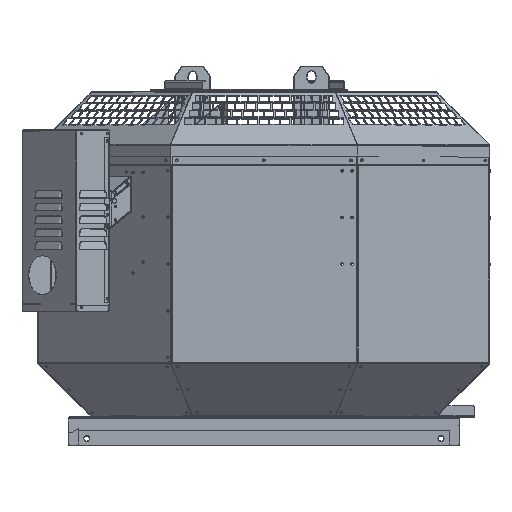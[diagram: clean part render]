
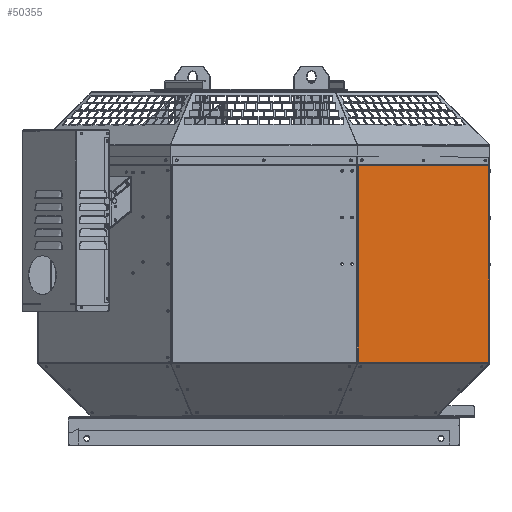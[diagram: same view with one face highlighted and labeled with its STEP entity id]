
A CAD part, top view. The second image highlights one B-rep face of the part: STEP entity #50355.
In plain terms, the highlighted planar face has unit normal (0.707, 0, 0.707).
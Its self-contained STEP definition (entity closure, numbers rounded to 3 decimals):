
#1117 = VECTOR ( 'NONE', #79343, 1000. ) ;
#4549 = ORIENTED_EDGE ( 'NONE', *, *, #87903, .F. ) ;
#11472 = CARTESIAN_POINT ( 'NONE',  ( 150.468, 422.408, 360.063 ) ) ;
#13188 = DIRECTION ( 'NONE',  ( 0.707, 0., -0.707 ) ) ;
#14889 = DIRECTION ( 'NONE',  ( 0., -1., 0. ) ) ;
#16103 = VECTOR ( 'NONE', #24863, 1000. ) ;
#17539 = VERTEX_POINT ( 'NONE', #139585 ) ;
#20257 = VECTOR ( 'NONE', #48614, 1000. ) ;
#22260 = ORIENTED_EDGE ( 'NONE', *, *, #116002, .T. ) ;
#24262 = VECTOR ( 'NONE', #13188, 1000. ) ;
#24863 = DIRECTION ( 'NONE',  ( 0., 1., 0. ) ) ;
#26377 = PLANE ( 'NONE',  #128968 ) ;
#28110 = VERTEX_POINT ( 'NONE', #41527 ) ;
#28351 = LINE ( 'NONE', #52459, #24262 ) ;
#29054 = LINE ( 'NONE', #87199, #98341 ) ;
#30443 = VERTEX_POINT ( 'NONE', #97186 ) ;
#35815 = LINE ( 'NONE', #131155, #1117 ) ;
#39441 = CARTESIAN_POINT ( 'NONE',  ( 360.707, 436.408, 149.824 ) ) ;
#41060 = CARTESIAN_POINT ( 'NONE',  ( 150.468, 436.408, 360.063 ) ) ;
#41527 = CARTESIAN_POINT ( 'NONE',  ( 360.063, 108.408, 150.468 ) ) ;
#46663 = VECTOR ( 'NONE', #147228, 1000. ) ;
#48614 = DIRECTION ( 'NONE',  ( 0., -1., 0. ) ) ;
#49053 = FACE_OUTER_BOUND ( 'NONE', #88854, .T. ) ;
#50297 = ORIENTED_EDGE ( 'NONE', *, *, #133211, .F. ) ;
#50355 = ADVANCED_FACE ( 'NONE', ( #49053 ), #26377, .T. ) ;
#51481 = EDGE_CURVE ( 'NONE', #17539, #166007, #154562, .T. ) ;
#52459 = CARTESIAN_POINT ( 'NONE',  ( 360.707, 422.416, 149.824 ) ) ;
#52556 = DIRECTION ( 'NONE',  ( 0.707, 0., 0.707 ) ) ;
#55305 = ORIENTED_EDGE ( 'NONE', *, *, #51481, .T. ) ;
#69261 = CARTESIAN_POINT ( 'NONE',  ( 150.786, 436.408, 359.745 ) ) ;
#70690 = VECTOR ( 'NONE', #14889, 1000. ) ;
#70752 = VECTOR ( 'NONE', #158206, 1000. ) ;
#71067 = VERTEX_POINT ( 'NONE', #106762 ) ;
#72096 = CARTESIAN_POINT ( 'NONE',  ( 150.786, 422.408, 359.745 ) ) ;
#79343 = DIRECTION ( 'NONE',  ( -0.707, 0., 0.707 ) ) ;
#79647 = EDGE_CURVE ( 'NONE', #82185, #17539, #144065, .T. ) ;
#82185 = VERTEX_POINT ( 'NONE', #167750 ) ;
#87199 = CARTESIAN_POINT ( 'NONE',  ( 360.707, 108.408, 149.824 ) ) ;
#87903 = EDGE_CURVE ( 'NONE', #28110, #30443, #29054, .T. ) ;
#88854 = EDGE_LOOP ( 'NONE', ( #135901, #22260, #148975, #123589, #4549, #50297, #131586, #55305 ) ) ;
#89795 = CARTESIAN_POINT ( 'NONE',  ( 359.745, 436.408, 150.786 ) ) ;
#97186 = CARTESIAN_POINT ( 'NONE',  ( 150.468, 108.408, 360.063 ) ) ;
#98341 = VECTOR ( 'NONE', #138939, 1000. ) ;
#100457 = CARTESIAN_POINT ( 'NONE',  ( 360.063, 436.408, 150.468 ) ) ;
#105868 = VERTEX_POINT ( 'NONE', #11472 ) ;
#106464 = CARTESIAN_POINT ( 'NONE',  ( 359.745, 422.408, 150.786 ) ) ;
#106762 = CARTESIAN_POINT ( 'NONE',  ( 150.786, 422.416, 359.745 ) ) ;
#109481 = LINE ( 'NONE', #41060, #70690 ) ;
#116002 = EDGE_CURVE ( 'NONE', #71067, #165414, #150557, .T. ) ;
#123589 = ORIENTED_EDGE ( 'NONE', *, *, #137385, .T. ) ;
#124115 = LINE ( 'NONE', #100457, #20257 ) ;
#128968 = AXIS2_PLACEMENT_3D ( 'NONE', #39441, #52556, #143619 ) ;
#131155 = CARTESIAN_POINT ( 'NONE',  ( 150.786, 422.408, 359.745 ) ) ;
#131586 = ORIENTED_EDGE ( 'NONE', *, *, #79647, .T. ) ;
#133211 = EDGE_CURVE ( 'NONE', #82185, #28110, #124115, .T. ) ;
#135395 = EDGE_CURVE ( 'NONE', #71067, #166007, #28351, .T. ) ;
#135901 = ORIENTED_EDGE ( 'NONE', *, *, #135395, .F. ) ;
#137385 = EDGE_CURVE ( 'NONE', #105868, #30443, #109481, .T. ) ;
#138939 = DIRECTION ( 'NONE',  ( -0.707, 0., 0.707 ) ) ;
#139585 = CARTESIAN_POINT ( 'NONE',  ( 359.745, 422.408, 150.786 ) ) ;
#143619 = DIRECTION ( 'NONE',  ( 0.707, 0., -0.707 ) ) ;
#143885 = EDGE_CURVE ( 'NONE', #165414, #105868, #35815, .T. ) ;
#144065 = LINE ( 'NONE', #106464, #70752 ) ;
#147228 = DIRECTION ( 'NONE',  ( 0., -1., 0. ) ) ;
#148975 = ORIENTED_EDGE ( 'NONE', *, *, #143885, .T. ) ;
#150557 = LINE ( 'NONE', #69261, #46663 ) ;
#154562 = LINE ( 'NONE', #89795, #16103 ) ;
#154957 = CARTESIAN_POINT ( 'NONE',  ( 359.745, 422.416, 150.786 ) ) ;
#158206 = DIRECTION ( 'NONE',  ( -0.707, 0., 0.707 ) ) ;
#165414 = VERTEX_POINT ( 'NONE', #72096 ) ;
#166007 = VERTEX_POINT ( 'NONE', #154957 ) ;
#167750 = CARTESIAN_POINT ( 'NONE',  ( 360.063, 422.408, 150.468 ) ) ;
